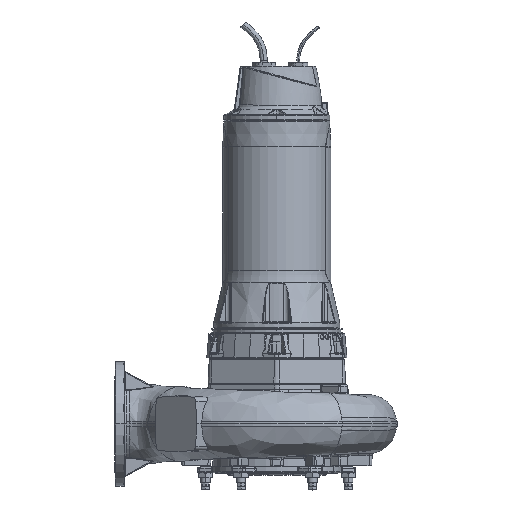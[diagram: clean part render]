
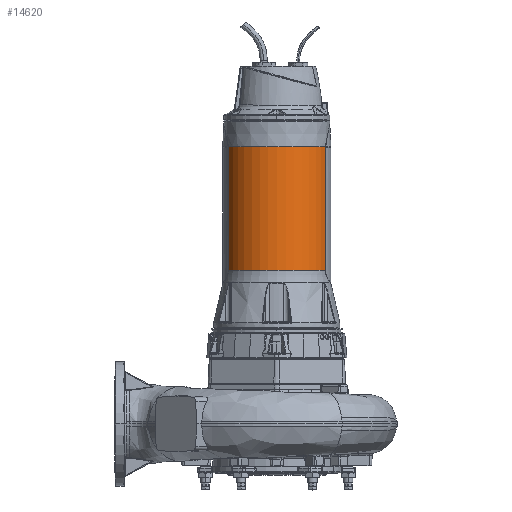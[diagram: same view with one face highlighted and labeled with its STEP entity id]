
A CAD part, top view. The second image highlights one B-rep face of the part: STEP entity #14620.
In plain terms, the highlighted cylindrical face has radius 202 mm (diameter 404 mm), a partial arc.
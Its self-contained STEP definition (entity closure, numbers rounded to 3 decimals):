
#866 = CARTESIAN_POINT ( 'NONE',  ( 811.176, 1264.172, 78.374 ) ) ;
#5361 = EDGE_LOOP ( 'NONE', ( #175609, #132856, #192537, #123413, #11717, #84815 ) ) ;
#5405 = CYLINDRICAL_SURFACE ( 'NONE', #39112, 202. ) ;
#11150 = EDGE_CURVE ( 'NONE', #93442, #80816, #57837, .T. ) ;
#11597 = LINE ( 'NONE', #160282, #51830 ) ;
#11717 = ORIENTED_EDGE ( 'NONE', *, *, #46310, .T. ) ;
#14620 = ADVANCED_FACE ( 'NONE', ( #180286 ), #5405, .T. ) ;
#14883 = CARTESIAN_POINT ( 'NONE',  ( 438.824, 1264.172, 78.374 ) ) ;
#15343 = CARTESIAN_POINT ( 'NONE',  ( 438.891, 1263.14, 78.533 ) ) ;
#18799 = VECTOR ( 'NONE', #155503, 1000. ) ;
#19523 = CARTESIAN_POINT ( 'NONE',  ( 811.075, 457.342, 78.614 ) ) ;
#21001 = CARTESIAN_POINT ( 'NONE',  ( 438.925, 789.328, 78.614 ) ) ;
#21373 = VERTEX_POINT ( 'NONE', #866 ) ;
#26554 = CARTESIAN_POINT ( 'NONE',  ( 811.075, 1261.053, 78.614 ) ) ;
#31465 = CARTESIAN_POINT ( 'NONE',  ( 625., 1264.172, 0. ) ) ;
#33217 = AXIS2_PLACEMENT_3D ( 'NONE', #172605, #82165, #187839 ) ;
#34935 = VERTEX_POINT ( 'NONE', #14883 ) ;
#36209 = EDGE_CURVE ( 'NONE', #93442, #51718, #179434, .T. ) ;
#37250 = EDGE_CURVE ( 'NONE', #21373, #34935, #164634, .T. ) ;
#39112 = AXIS2_PLACEMENT_3D ( 'NONE', #65656, #125809, #156723 ) ;
#41106 = CARTESIAN_POINT ( 'NONE',  ( 811.075, 1262.1, 78.614 ) ) ;
#46310 = EDGE_CURVE ( 'NONE', #51718, #21373, #167110, .T. ) ;
#46634 = DIRECTION ( 'NONE',  ( -1., 0., 0. ) ) ;
#51718 = VERTEX_POINT ( 'NONE', #77977 ) ;
#51830 = VECTOR ( 'NONE', #84964, 1000. ) ;
#52010 = B_SPLINE_CURVE_WITH_KNOTS ( 'NONE', 3,
 ( #136267, #15343, #62909, #168490 ),
 .UNSPECIFIED., .F., .F.,
 ( 4, 4 ),
 ( 0., 0.003 ),
 .UNSPECIFIED. ) ;
#56962 = CARTESIAN_POINT ( 'NONE',  ( 811.109, 1263.14, 78.533 ) ) ;
#57837 = CIRCLE ( 'NONE', #33217, 202. ) ;
#60691 = AXIS2_PLACEMENT_3D ( 'NONE', #31465, #137142, #46634 ) ;
#62909 = CARTESIAN_POINT ( 'NONE',  ( 438.925, 1262.1, 78.614 ) ) ;
#65656 = CARTESIAN_POINT ( 'NONE',  ( 625., 457.342, 0. ) ) ;
#77977 = CARTESIAN_POINT ( 'NONE',  ( 811.075, 1261.053, 78.614 ) ) ;
#80816 = VERTEX_POINT ( 'NONE', #21001 ) ;
#82165 = DIRECTION ( 'NONE',  ( 0., -1., 0. ) ) ;
#84815 = ORIENTED_EDGE ( 'NONE', *, *, #37250, .T. ) ;
#84964 = DIRECTION ( 'NONE',  ( 0., -1., 0. ) ) ;
#93442 = VERTEX_POINT ( 'NONE', #185033 ) ;
#123413 = ORIENTED_EDGE ( 'NONE', *, *, #36209, .T. ) ;
#125809 = DIRECTION ( 'NONE',  ( 0., -1., 0. ) ) ;
#132856 = ORIENTED_EDGE ( 'NONE', *, *, #193997, .T. ) ;
#133394 = VERTEX_POINT ( 'NONE', #145416 ) ;
#136267 = CARTESIAN_POINT ( 'NONE',  ( 438.824, 1264.172, 78.374 ) ) ;
#137142 = DIRECTION ( 'NONE',  ( 0., -1., 0. ) ) ;
#145416 = CARTESIAN_POINT ( 'NONE',  ( 438.925, 1261.053, 78.614 ) ) ;
#155503 = DIRECTION ( 'NONE',  ( 0., 1., 0. ) ) ;
#156723 = DIRECTION ( 'NONE',  ( -1., 0., 0. ) ) ;
#160282 = CARTESIAN_POINT ( 'NONE',  ( 438.925, 457.342, 78.614 ) ) ;
#162522 = CARTESIAN_POINT ( 'NONE',  ( 811.176, 1264.172, 78.374 ) ) ;
#164634 = CIRCLE ( 'NONE', #60691, 202. ) ;
#167110 = B_SPLINE_CURVE_WITH_KNOTS ( 'NONE', 3,
 ( #26554, #41106, #56962, #162522 ),
 .UNSPECIFIED., .F., .F.,
 ( 4, 4 ),
 ( 0., 0.003 ),
 .UNSPECIFIED. ) ;
#168490 = CARTESIAN_POINT ( 'NONE',  ( 438.925, 1261.053, 78.614 ) ) ;
#172605 = CARTESIAN_POINT ( 'NONE',  ( 625., 789.328, 0. ) ) ;
#175609 = ORIENTED_EDGE ( 'NONE', *, *, #181251, .T. ) ;
#179434 = LINE ( 'NONE', #19523, #18799 ) ;
#180286 = FACE_OUTER_BOUND ( 'NONE', #5361, .T. ) ;
#181251 = EDGE_CURVE ( 'NONE', #34935, #133394, #52010, .T. ) ;
#185033 = CARTESIAN_POINT ( 'NONE',  ( 811.075, 789.328, 78.614 ) ) ;
#187839 = DIRECTION ( 'NONE',  ( -1., 0., 0. ) ) ;
#192537 = ORIENTED_EDGE ( 'NONE', *, *, #11150, .F. ) ;
#193997 = EDGE_CURVE ( 'NONE', #133394, #80816, #11597, .T. ) ;
